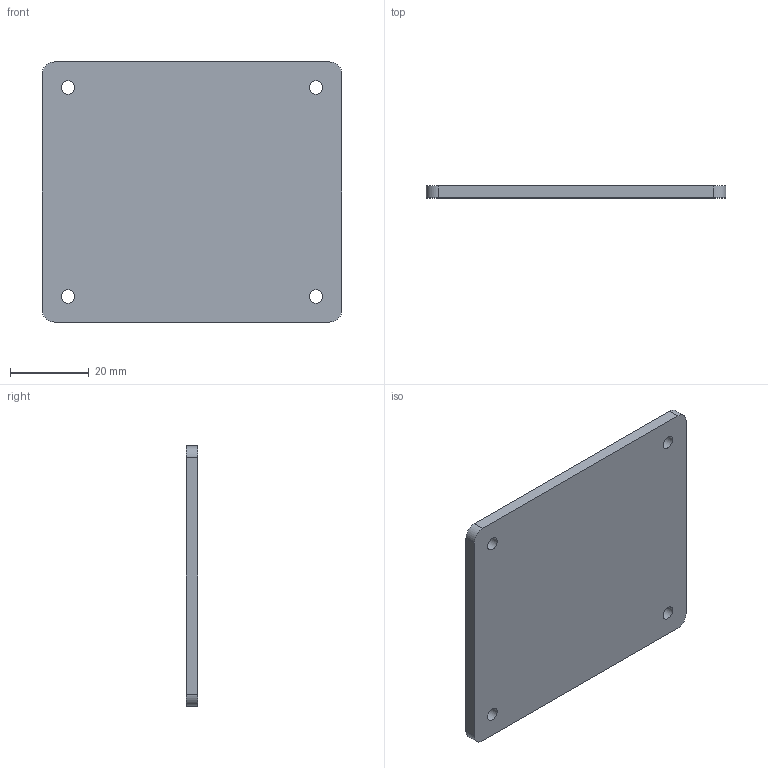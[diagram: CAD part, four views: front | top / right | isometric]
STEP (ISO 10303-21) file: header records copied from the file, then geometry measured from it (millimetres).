
FILE_DESCRIPTION(('Open CASCADE Model'),'2;1');
FILE_NAME('Open CASCADE Shape Model','2026-09-29T12:47:59',('Author'),( 'Open CASCADE'),'Open CASCADE STEP processor 7.9','Open CASCADE 7.9' ,'Unknown');
FILE_SCHEMA(('AUTOMOTIVE_DESIGN { 1 0 10303 214 1 1 1 1 }'));
Length unit declared in the file: millimetre
Products named in the file (1): Open CASCADE STEP translator 7.9 14
Bounding box: 76 x 3 x 66 mm (x, y, z)
Volume: 14915.9 mm3; surface area: 10908.6 mm2
Topology: 1 solids, 1 shells, 14 faces, 36 edges, 24 vertices
Faces by surface type: cylinder 8, plane 6
Full cylindrical faces by diameter (mm): 3.4 x4
Entity records: 966 total; most frequent: CARTESIAN_POINT 219, DIRECTION 142, LINE 76, VECTOR 76, ORIENTED_EDGE 72, PCURVE 72, DEFINITIONAL_REPRESENTATION 72, EDGE_CURVE 36
